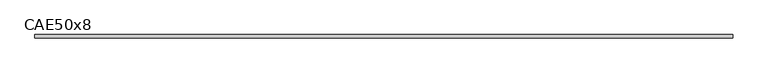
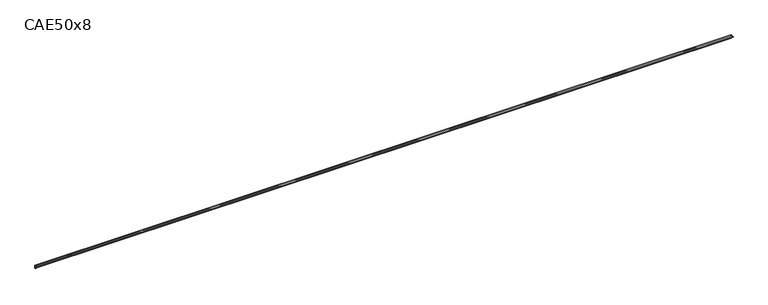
"""IFC4 building model written with IfcOpenShell, lengths in millimetres: beam geometry, L-Cornières : CAE50x8."""

from ifc_helpers import new_model, si_unit, point, frame, frame_2d, origin, place, context, project, spatial, polyline, circle_curve, trimmed, segment, composite_curve, outline, extrude, source, transform, mapped, element, save


def cae50x8_4c5ec336(model_context):
    return source(origin(), model_context, "Body", "SweptSolid", [
        extrude(outline(composite_curve([segment(polyline([(15.2, 15.2), (15.2, -34.8)]), True, "CONTINUOUS"), segment(trimmed(circle_curve(frame_2d((15.2, -26.8)), 8.0), [point((15.2, -34.8))], [point((7.2, -26.8))], False, "CARTESIAN"), True, "CONTINUOUS"), segment(polyline([(7.2, -26.8), (7.2, -0.8)]), True, "CONTINUOUS"), segment(trimmed(circle_curve(frame_2d((-0.8, -0.8)), 8.0), [point((7.2, -0.8))], [point((-0.8, 7.2))], True, "CARTESIAN"), True, "CONTINUOUS"), segment(polyline([(-0.8, 7.2), (-26.8, 7.2)]), True, "CONTINUOUS"), segment(trimmed(circle_curve(frame_2d((-26.8, 15.2)), 8.0), [point((-26.8, 7.2))], [point((-34.8, 15.2))], False, "CARTESIAN"), True, "CONTINUOUS"), segment(polyline([(-34.8, 15.2), (15.2, 15.2)]), True, "CONTINUOUS")], self_intersect=False)), frame((-5574.5, 0.0, 0.0), z_axis=(1.0, 0.0, 0.0), x_axis=(0.0, 1.0, 0.0)), (0.0, 0.0, 1.0), 10828.0),
    ])


if __name__ == "__main__":
    model = new_model("IFC4")
    model_context = context("Model", 3, world=origin())
    ifc_project = project(units=[si_unit("LENGTHUNIT", "METRE", prefix="MILLI")], contexts=[model_context])
    site = spatial("IfcSite", under=ifc_project)
    building = spatial("IfcBuilding", under=site)
    placement = place(None, origin())
    cae50x8_shape = cae50x8_4c5ec336(model_context)
    element("IfcBeam", 1, ObjectType="L-Cornières : CAE50x8", at=placement, inside=building, context=model_context, shape_type="MappedRepresentation", body=[
        mapped(cae50x8_shape, transform((0.0, 0.0, 0.0), x_axis=(1.0, 0.0, 0.0), y_axis=(0.0, 1.0, 0.0), z_axis=(0.0, 0.0, 1.0))),
    ])
    save(model, "model.ifc")
